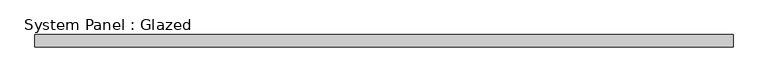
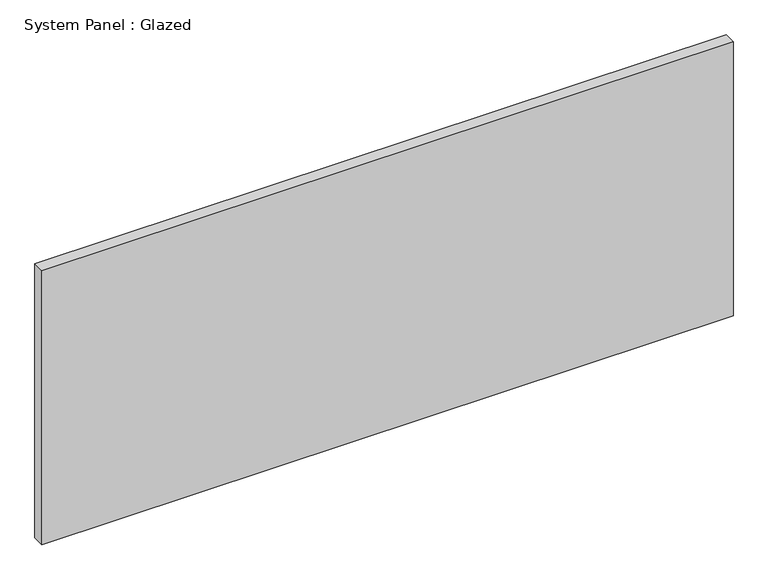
"""IFC4 building model written with IfcOpenShell, lengths in millimetres: plate geometry, System Panel : Glazed."""

from ifc_helpers import new_model, si_unit, origin, origin_with_axes, place, context, project, spatial, polyline, outline, extrude, source, transform, mapped, element, save


def system_panel_glazed_f3953a00(model_context):
    return source(origin(), model_context, "Body", "SweptSolid", [
        extrude(outline(polyline([(703.9062501, 24.5), (-703.9062501, 24.5), (-703.9062501, 49.5), (703.9062501, 49.5), (703.9062501, 24.5)])), origin_with_axes(), (0.0, 0.0, 1.0), 590.0),
    ])


if __name__ == "__main__":
    model = new_model("IFC4")
    model_context = context("Model", 3, world=origin())
    ifc_project = project(units=[si_unit("LENGTHUNIT", "METRE", prefix="MILLI")], contexts=[model_context])
    site = spatial("IfcSite", under=ifc_project)
    building = spatial("IfcBuilding", under=site)
    placement = place(None, origin())
    system_panel_glazed_shape = system_panel_glazed_f3953a00(model_context)
    element("IfcPlate", 1, ObjectType="System Panel : Glazed", at=placement, inside=building, context=model_context, shape_type="MappedRepresentation", body=[
        mapped(system_panel_glazed_shape, transform((0.0, 0.0, 0.0), x_axis=(1.0, 0.0, 0.0), y_axis=(0.0, 1.0, 0.0), z_axis=(0.0, 0.0, 1.0))),
    ])
    save(model, "model.ifc")
